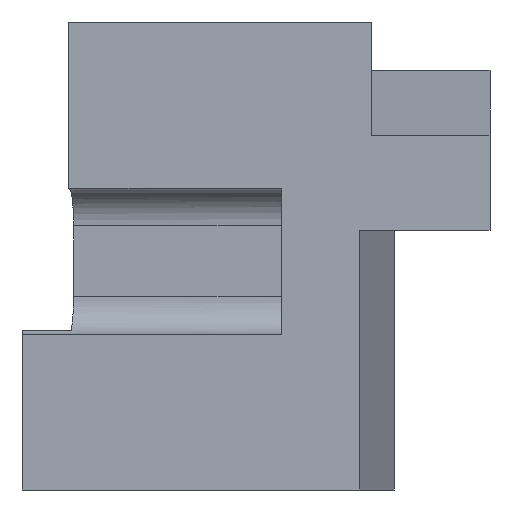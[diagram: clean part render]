
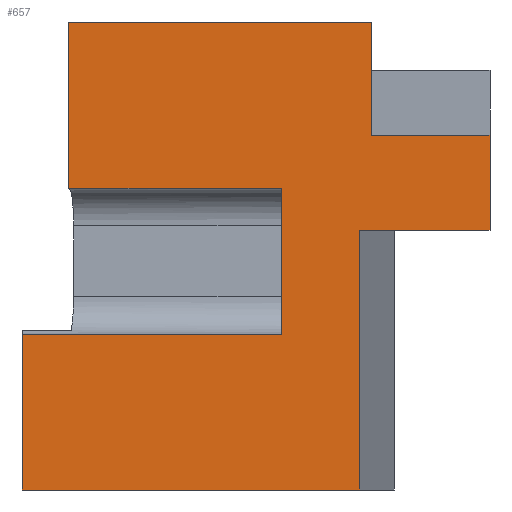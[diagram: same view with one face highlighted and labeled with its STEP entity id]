
A CAD part, front view. The second image highlights one B-rep face of the part: STEP entity #657.
In plain terms, the highlighted planar face has unit normal (0, -1, 0).
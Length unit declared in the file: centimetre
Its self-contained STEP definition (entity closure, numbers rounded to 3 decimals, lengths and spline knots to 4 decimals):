
#7 = VERTEX_POINT ( 'NONE', #42 ) ;
#15 = LINE ( 'NONE', #378, #554 ) ;
#21 = CARTESIAN_POINT ( 'NONE',  ( 553.7971, 0., 1000. ) ) ;
#41 = CARTESIAN_POINT ( 'NONE',  ( 1000., 0., 1000. ) ) ;
#42 = CARTESIAN_POINT ( 'NONE',  ( 721.4318, 0., 554.6124 ) ) ;
#66 = VECTOR ( 'NONE', #846, 100. ) ;
#102 = VECTOR ( 'NONE', #571, 100. ) ;
#108 = CARTESIAN_POINT ( 'NONE',  ( 0., 0., 1000. ) ) ;
#136 = VECTOR ( 'NONE', #963, 100. ) ;
#147 = VERTEX_POINT ( 'NONE', #347 ) ;
#156 = VERTEX_POINT ( 'NONE', #521 ) ;
#174 = VECTOR ( 'NONE', #820, 100. ) ;
#186 = ORIENTED_EDGE ( 'NONE', *, *, #364, .T. ) ;
#201 = VERTEX_POINT ( 'NONE', #899 ) ;
#205 = ORIENTED_EDGE ( 'NONE', *, *, #240, .T. ) ;
#207 = CARTESIAN_POINT ( 'NONE',  ( 100.2794, 0., 1000. ) ) ;
#211 = LINE ( 'NONE', #21, #809 ) ;
#213 = AXIS2_PLACEMENT_3D ( 'NONE', #1180, #703, #267 ) ;
#226 = CARTESIAN_POINT ( 'NONE',  ( 0., 0., 332.4844 ) ) ;
#236 = VERTEX_POINT ( 'NONE', #531 ) ;
#240 = EDGE_CURVE ( 'NONE', #1101, #746, #1017, .T. ) ;
#242 = VERTEX_POINT ( 'NONE', #207 ) ;
#252 = VECTOR ( 'NONE', #1105, 100. ) ;
#261 = EDGE_CURVE ( 'NONE', #746, #156, #1130, .T. ) ;
#265 = CARTESIAN_POINT ( 'NONE',  ( 100.2794, 0., 645.1602 ) ) ;
#267 = DIRECTION ( 'NONE',  ( 0., 0., 1. ) ) ;
#271 = CARTESIAN_POINT ( 'NONE',  ( 1000., 0., 554.6124 ) ) ;
#273 = ORIENTED_EDGE ( 'NONE', *, *, #778, .F. ) ;
#288 = DIRECTION ( 'NONE',  ( -1., 0., 0. ) ) ;
#300 = CARTESIAN_POINT ( 'NONE',  ( 747.7553, 0., 757.7064 ) ) ;
#302 = LINE ( 'NONE', #1027, #1077 ) ;
#332 = ORIENTED_EDGE ( 'NONE', *, *, #376, .F. ) ;
#340 = DIRECTION ( 'NONE',  ( 0., 0., -1. ) ) ;
#341 = EDGE_CURVE ( 'NONE', #236, #201, #211, .T. ) ;
#347 = CARTESIAN_POINT ( 'NONE',  ( 1000., 0., 757.7064 ) ) ;
#350 = ORIENTED_EDGE ( 'NONE', *, *, #341, .F. ) ;
#358 = CARTESIAN_POINT ( 'NONE',  ( 721.4318, 0., 554.6124 ) ) ;
#360 = CARTESIAN_POINT ( 'NONE',  ( 0., 0., 0. ) ) ;
#364 = EDGE_CURVE ( 'NONE', #236, #1101, #302, .T. ) ;
#376 = EDGE_CURVE ( 'NONE', #644, #7, #15, .T. ) ;
#378 = CARTESIAN_POINT ( 'NONE',  ( 721.4318, 0., 554.6124 ) ) ;
#420 = ORIENTED_EDGE ( 'NONE', *, *, #1051, .F. ) ;
#439 = ORIENTED_EDGE ( 'NONE', *, *, #1173, .F. ) ;
#446 = VECTOR ( 'NONE', #953, 100. ) ;
#465 = ORIENTED_EDGE ( 'NONE', *, *, #261, .T. ) ;
#521 = CARTESIAN_POINT ( 'NONE',  ( 721.4318, 0., 0. ) ) ;
#531 = CARTESIAN_POINT ( 'NONE',  ( 553.7971, 0., 332.4844 ) ) ;
#537 = DIRECTION ( 'NONE',  ( 0., 0., 1. ) ) ;
#554 = VECTOR ( 'NONE', #288, 100. ) ;
#564 = EDGE_LOOP ( 'NONE', ( #350, #186, #205, #465, #946, #332, #994, #982, #420, #439, #273, #919 ) ) ;
#571 = DIRECTION ( 'NONE',  ( 0., 0., -1. ) ) ;
#594 = DIRECTION ( 'NONE',  ( 1., 0., 0. ) ) ;
#644 = VERTEX_POINT ( 'NONE', #271 ) ;
#656 = CARTESIAN_POINT ( 'NONE',  ( 0., 0., 0. ) ) ;
#657 = ADVANCED_FACE ( 'NONE', ( #987 ), #800, .F. ) ;
#660 = EDGE_CURVE ( 'NONE', #7, #156, #1164, .T. ) ;
#669 = VECTOR ( 'NONE', #537, 100. ) ;
#676 = VERTEX_POINT ( 'NONE', #993 ) ;
#703 = DIRECTION ( 'NONE',  ( 0., 1., 0. ) ) ;
#740 = DIRECTION ( 'NONE',  ( -1., 0., 0. ) ) ;
#746 = VERTEX_POINT ( 'NONE', #360 ) ;
#750 = CARTESIAN_POINT ( 'NONE',  ( 747.7553, 0., 757.7064 ) ) ;
#755 = CARTESIAN_POINT ( 'NONE',  ( 0., 0., 1000. ) ) ;
#761 = DIRECTION ( 'NONE',  ( 0., 0., 1. ) ) ;
#774 = VERTEX_POINT ( 'NONE', #985 ) ;
#778 = EDGE_CURVE ( 'NONE', #829, #242, #1087, .T. ) ;
#800 = PLANE ( 'NONE',  #213 ) ;
#809 = VECTOR ( 'NONE', #761, 100. ) ;
#820 = DIRECTION ( 'NONE',  ( 1., 0., 0. ) ) ;
#829 = VERTEX_POINT ( 'NONE', #265 ) ;
#844 = VECTOR ( 'NONE', #340, 100. ) ;
#846 = DIRECTION ( 'NONE',  ( 0., 0., -1. ) ) ;
#899 = CARTESIAN_POINT ( 'NONE',  ( 553.7971, 0., 645.1602 ) ) ;
#913 = LINE ( 'NONE', #750, #174 ) ;
#919 = ORIENTED_EDGE ( 'NONE', *, *, #1129, .T. ) ;
#946 = ORIENTED_EDGE ( 'NONE', *, *, #660, .F. ) ;
#948 = CARTESIAN_POINT ( 'NONE',  ( 553.7971, 0., 645.1602 ) ) ;
#953 = DIRECTION ( 'NONE',  ( 0., 0., -1. ) ) ;
#963 = DIRECTION ( 'NONE',  ( 1., 0., 0. ) ) ;
#973 = EDGE_CURVE ( 'NONE', #774, #147, #913, .T. ) ;
#982 = ORIENTED_EDGE ( 'NONE', *, *, #973, .F. ) ;
#985 = CARTESIAN_POINT ( 'NONE',  ( 747.7553, 0., 757.7064 ) ) ;
#987 = FACE_OUTER_BOUND ( 'NONE', #564, .T. ) ;
#993 = CARTESIAN_POINT ( 'NONE',  ( 747.7553, 0., 1000. ) ) ;
#994 = ORIENTED_EDGE ( 'NONE', *, *, #1081, .F. ) ;
#1017 = LINE ( 'NONE', #108, #102 ) ;
#1027 = CARTESIAN_POINT ( 'NONE',  ( 553.7971, 0., 332.4844 ) ) ;
#1039 = LINE ( 'NONE', #41, #446 ) ;
#1051 = EDGE_CURVE ( 'NONE', #676, #774, #1119, .T. ) ;
#1077 = VECTOR ( 'NONE', #740, 100. ) ;
#1081 = EDGE_CURVE ( 'NONE', #147, #644, #1039, .T. ) ;
#1087 = LINE ( 'NONE', #1191, #669 ) ;
#1101 = VERTEX_POINT ( 'NONE', #226 ) ;
#1105 = DIRECTION ( 'NONE',  ( 1., 0., 0. ) ) ;
#1119 = LINE ( 'NONE', #300, #66 ) ;
#1129 = EDGE_CURVE ( 'NONE', #829, #201, #1134, .T. ) ;
#1130 = LINE ( 'NONE', #656, #252 ) ;
#1134 = LINE ( 'NONE', #948, #1155 ) ;
#1141 = LINE ( 'NONE', #755, #136 ) ;
#1155 = VECTOR ( 'NONE', #594, 100. ) ;
#1164 = LINE ( 'NONE', #358, #844 ) ;
#1173 = EDGE_CURVE ( 'NONE', #242, #676, #1141, .T. ) ;
#1180 = CARTESIAN_POINT ( 'NONE',  ( 0., 0., 1000. ) ) ;
#1191 = CARTESIAN_POINT ( 'NONE',  ( 100.2794, 0., 341.0087 ) ) ;
